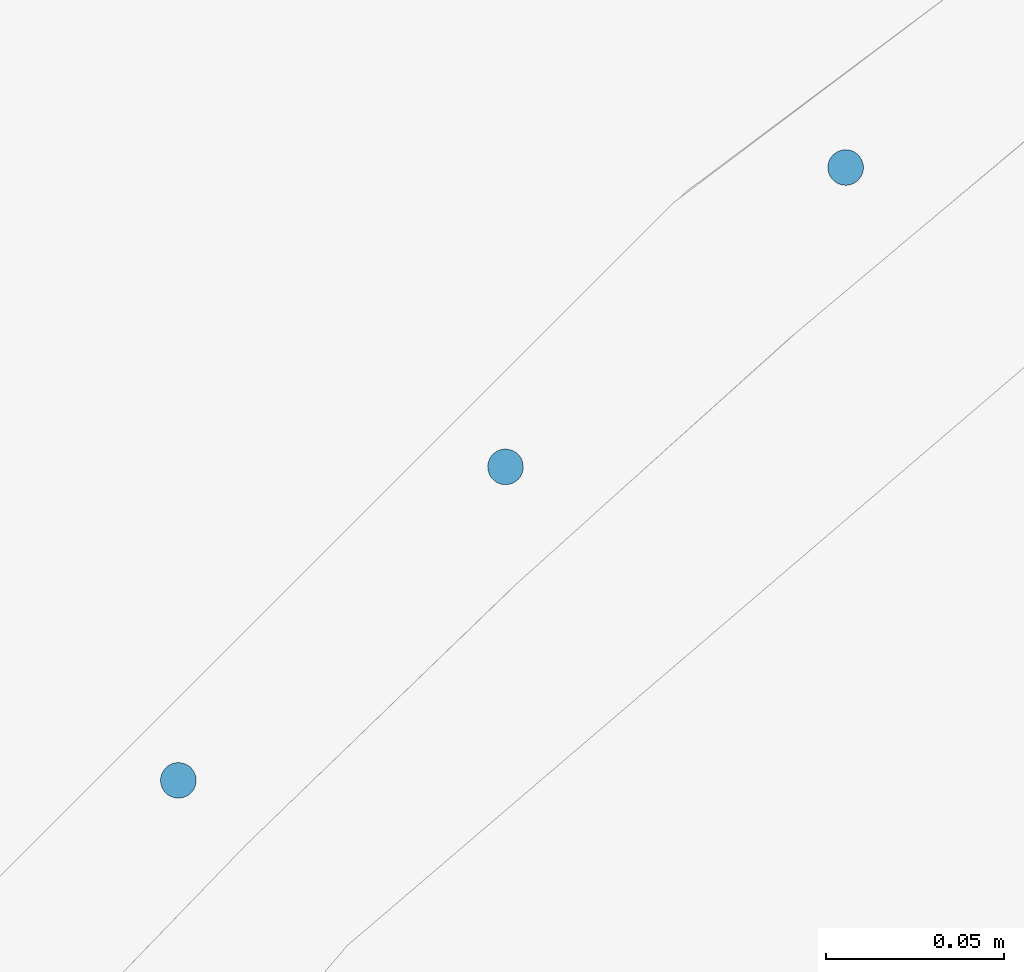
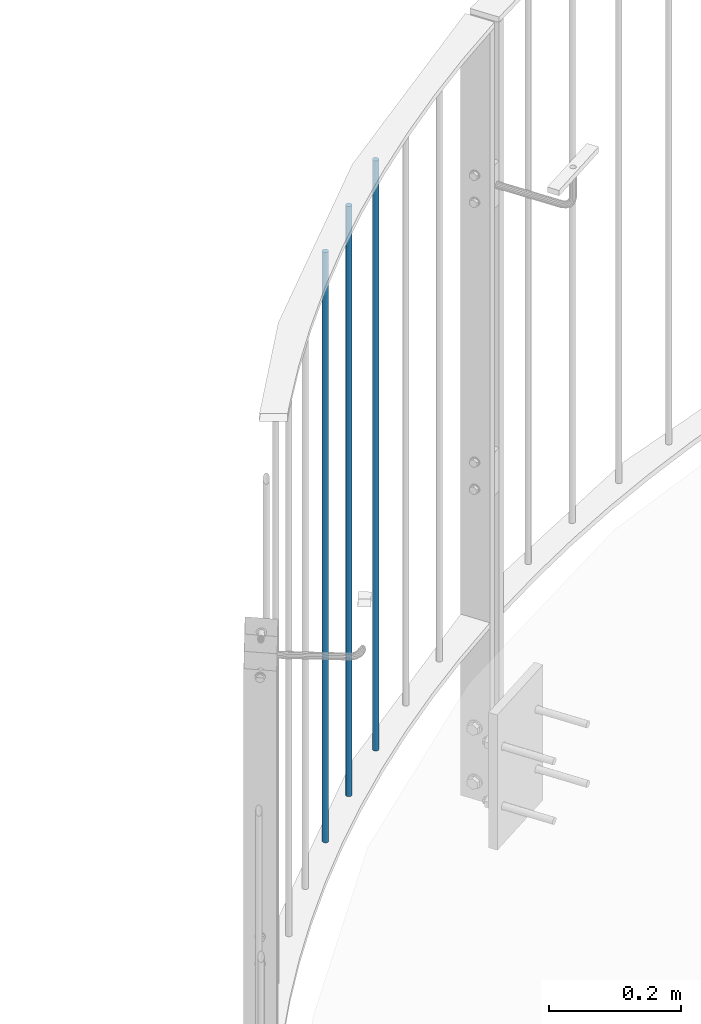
# One storey, part 67 of 296: 3 columns.
"""IFC2X3 building model written with IfcOpenShell, lengths in millimetres."""

from ifc_helpers import new_model, entity, si_unit, converted_unit, frame, origin, origin_with_axes, origin_2d, place, context, project, spatial, circle, extrude, material, element, save


model = new_model("IFC2X3")

# Units and contexts
model_context = context("Model", 3, precision=1e-09, world=origin_with_axes())
ifc_project = project(units=[si_unit("LENGTHUNIT", "METRE", prefix="MILLI"), si_unit("AREAUNIT", "SQUARE_METRE"), si_unit("VOLUMEUNIT", "CUBIC_METRE"), converted_unit("PLANEANGLEUNIT", "DEGREE", entity("IfcPlaneAngleMeasure", 0.01745329), si_unit("PLANEANGLEUNIT", "RADIAN"), dimensions=[0, 0, 0, 0, 0, 0, 0])], contexts=[model_context])

# Site, building, storey
site_placement = place(None, origin_with_axes())
site = spatial("IfcSite", under=ifc_project, at=site_placement, Name="TZD-S?d | Treppenhausgel?nder", CompositionType="ELEMENT")
building_placement = place(site_placement, origin_with_axes())
building = spatial("IfcBuilding", under=site, at=building_placement, Name="Struktur 1", CompositionType="ELEMENT")
storey_placement = place(building_placement, origin_with_axes())
storey = spatial("IfcBuildingStorey", under=building, at=storey_placement, Name="Default Storey", CompositionType="ELEMENT", Elevation=0.0)

# Columns
ifc_material = material(Name="S235JR")
for number, where, z_axis, x_axis in (
    (1, (809.371309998, 2014.545248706, 11725.0), (0.0, 0.0, 1.0), (0.422618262, 0.906307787, 0.0)),
    (2, (901.029416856, 2102.391557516, 11725.0), (0.0, 0.0, 1.0), (0.422618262, 0.906307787, 0.0)),
    (3, (996.33407058, 2186.267689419, 11725.0), (0.0, 0.0, 1.0), (0.422618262, 0.906307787, 0.0)),
):
    element("IfcColumn", number, at=place(None, frame(where, z_axis=z_axis, x_axis=x_axis)), inside=storey, material=ifc_material, Name="-", ObjectType="-", context=model_context, shape_type="SweptSolid", body=[
        extrude(circle(Radius=5.0, at=origin_2d()), origin(), (0.0, 0.0, 1.0), 1090.0),
    ])

save(model, "model.ifc")
